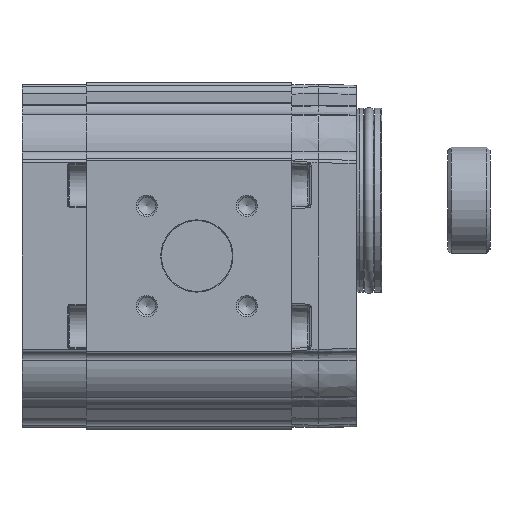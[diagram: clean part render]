
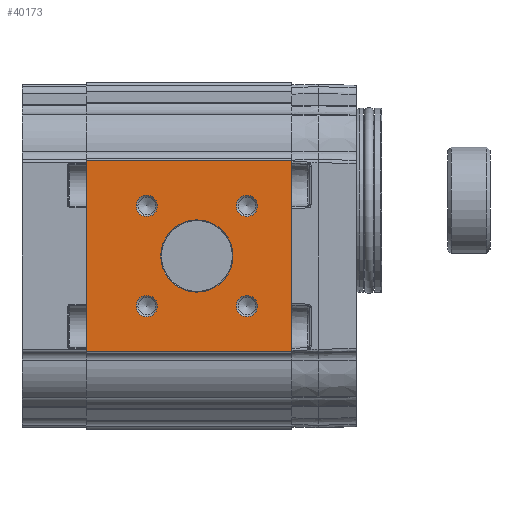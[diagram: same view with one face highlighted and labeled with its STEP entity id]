
A CAD part, left-side view. The second image highlights one B-rep face of the part: STEP entity #40173.
In plain terms, the highlighted planar face has unit normal (-1, 0, 0).
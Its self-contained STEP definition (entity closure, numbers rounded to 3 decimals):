
#2316=LINE('',#68682,#4014);
#2317=LINE('',#68685,#4015);
#2318=LINE('',#68687,#4016);
#2319=LINE('',#68689,#4017);
#4014=VECTOR('',#49323,1000.);
#4015=VECTOR('',#49324,1000.);
#4016=VECTOR('',#49325,1000.);
#4017=VECTOR('',#49326,1000.);
#11099=ORIENTED_EDGE('',*,*,#16768,.T.);
#11100=ORIENTED_EDGE('',*,*,#16769,.T.);
#11101=ORIENTED_EDGE('',*,*,#16770,.T.);
#11102=ORIENTED_EDGE('',*,*,#16771,.T.);
#11103=ORIENTED_EDGE('',*,*,#16772,.T.);
#11104=ORIENTED_EDGE('',*,*,#16773,.F.);
#11105=ORIENTED_EDGE('',*,*,#16774,.F.);
#11106=ORIENTED_EDGE('',*,*,#16775,.T.);
#11107=ORIENTED_EDGE('',*,*,#16776,.T.);
#16768=EDGE_CURVE('',#19923,#19923,#21883,.F.);
#16769=EDGE_CURVE('',#19924,#19924,#21884,.F.);
#16770=EDGE_CURVE('',#19925,#19925,#21885,.F.);
#16771=EDGE_CURVE('',#19926,#19926,#21886,.F.);
#16772=EDGE_CURVE('',#19927,#19927,#21887,.F.);
#16773=EDGE_CURVE('',#19928,#19929,#2316,.T.);
#16774=EDGE_CURVE('',#19930,#19928,#2317,.T.);
#16775=EDGE_CURVE('',#19930,#19931,#2318,.T.);
#16776=EDGE_CURVE('',#19931,#19929,#2319,.T.);
#19923=VERTEX_POINT('',#68673);
#19924=VERTEX_POINT('',#68675);
#19925=VERTEX_POINT('',#68677);
#19926=VERTEX_POINT('',#68679);
#19927=VERTEX_POINT('',#68681);
#19928=VERTEX_POINT('',#68683);
#19929=VERTEX_POINT('',#68684);
#19930=VERTEX_POINT('',#68686);
#19931=VERTEX_POINT('',#68688);
#21883=CIRCLE('',#42931,10.2);
#21884=CIRCLE('',#42932,3.);
#21885=CIRCLE('',#42933,3.);
#21886=CIRCLE('',#42934,3.);
#21887=CIRCLE('',#42935,3.);
#23737=EDGE_LOOP('',(#11099));
#23738=EDGE_LOOP('',(#11100));
#23739=EDGE_LOOP('',(#11101));
#23740=EDGE_LOOP('',(#11102));
#23741=EDGE_LOOP('',(#11103));
#23742=EDGE_LOOP('',(#11104,#11105,#11106,#11107));
#25753=FACE_BOUND('',#23737,.T.);
#25754=FACE_BOUND('',#23738,.T.);
#25755=FACE_BOUND('',#23739,.T.);
#25756=FACE_BOUND('',#23740,.T.);
#25757=FACE_BOUND('',#23741,.T.);
#25758=FACE_BOUND('',#23742,.T.);
#26825=PLANE('',#42930);
#40173=ADVANCED_FACE('',(#25753,#25754,#25755,#25756,#25757,#25758),#26825,
 .T.);
#42930=AXIS2_PLACEMENT_3D('',#68671,#49311,#49312);
#42931=AXIS2_PLACEMENT_3D('',#68672,#49313,#49314);
#42932=AXIS2_PLACEMENT_3D('',#68674,#49315,#49316);
#42933=AXIS2_PLACEMENT_3D('',#68676,#49317,#49318);
#42934=AXIS2_PLACEMENT_3D('',#68678,#49319,#49320);
#42935=AXIS2_PLACEMENT_3D('',#68680,#49321,#49322);
#49311=DIRECTION('',(-1.,0.,0.));
#49312=DIRECTION('',(0.,0.,1.));
#49313=DIRECTION('',(-1.,0.,0.));
#49314=DIRECTION('',(0.,0.,1.));
#49315=DIRECTION('',(-1.,0.,0.));
#49316=DIRECTION('',(0.,0.,1.));
#49317=DIRECTION('',(-1.,0.,0.));
#49318=DIRECTION('',(0.,0.,1.));
#49319=DIRECTION('',(-1.,0.,0.));
#49320=DIRECTION('',(0.,0.,1.));
#49321=DIRECTION('',(-1.,0.,0.));
#49322=DIRECTION('',(0.,0.,1.));
#49323=DIRECTION('',(0.,0.,-1.));
#49324=DIRECTION('',(0.,-1.,0.));
#49325=DIRECTION('',(0.,0.,-1.));
#49326=DIRECTION('',(0.,-1.,0.));
#68671=CARTESIAN_POINT('',(-43.,58.,27.048));
#68672=CARTESIAN_POINT('',(-43.,26.8,0.));
#68673=CARTESIAN_POINT('',(-43.,26.8,10.2));
#68674=CARTESIAN_POINT('',(-43.,40.942,-14.142));
#68675=CARTESIAN_POINT('',(-43.,40.942,-11.142));
#68676=CARTESIAN_POINT('',(-43.,40.942,14.142));
#68677=CARTESIAN_POINT('',(-43.,40.942,17.142));
#68678=CARTESIAN_POINT('',(-43.,12.658,14.142));
#68679=CARTESIAN_POINT('',(-43.,12.658,17.142));
#68680=CARTESIAN_POINT('',(-43.,12.658,-14.142));
#68681=CARTESIAN_POINT('',(-43.,12.658,-11.142));
#68682=CARTESIAN_POINT('',(-43.,0.,27.048));
#68683=CARTESIAN_POINT('',(-43.,0.,27.048));
#68684=CARTESIAN_POINT('',(-43.,0.,-27.048));
#68685=CARTESIAN_POINT('',(-43.,58.,27.048));
#68686=CARTESIAN_POINT('',(-43.,58.,27.048));
#68687=CARTESIAN_POINT('',(-43.,58.,27.048));
#68688=CARTESIAN_POINT('',(-43.,58.,-27.048));
#68689=CARTESIAN_POINT('',(-43.,58.,-27.048));
